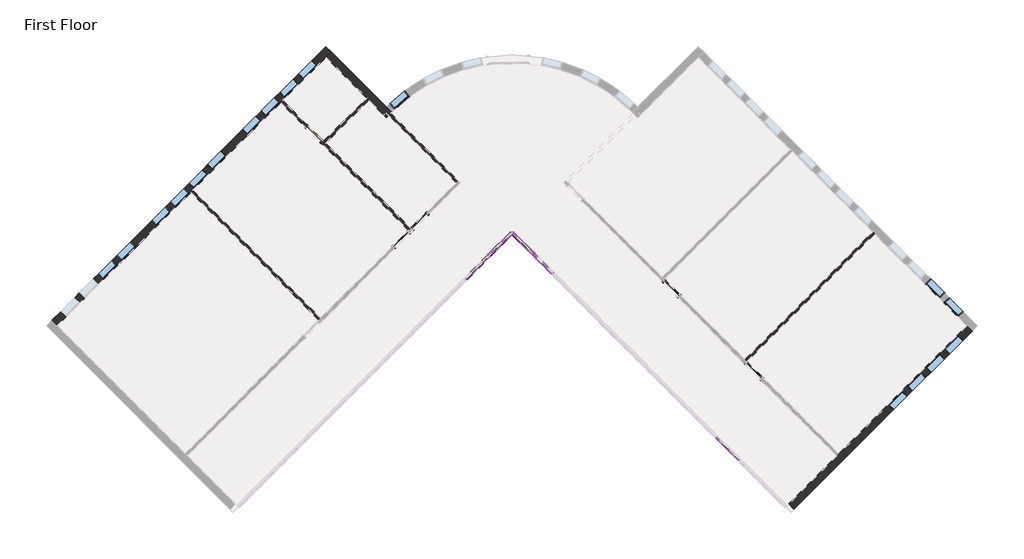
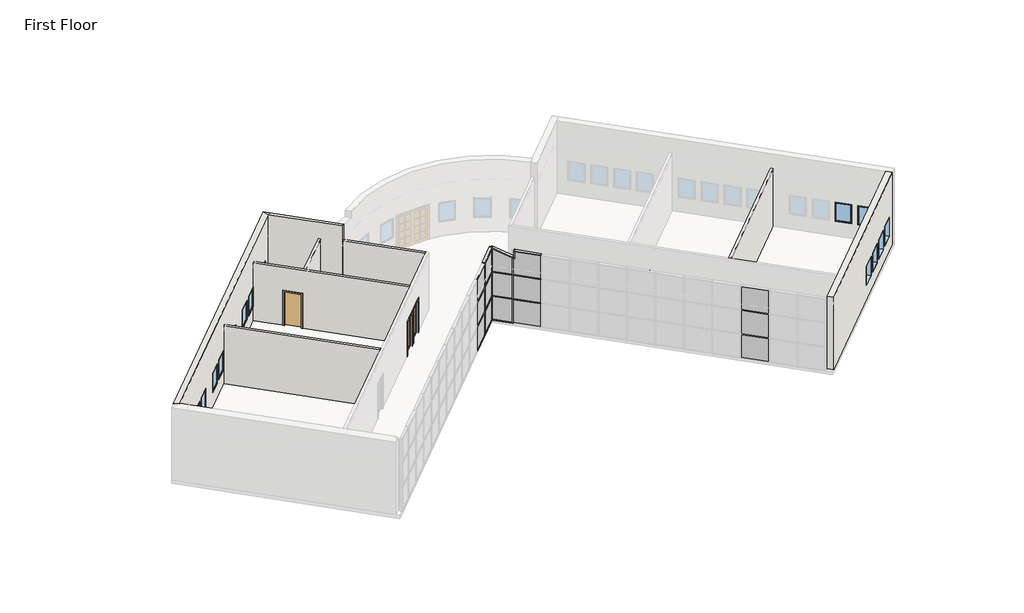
# One storey, part 3 of 4: 26 members, 17 windows, 15 plates, 8 walls, 5 doors.
"""IFC4 building model written with IfcOpenShell, lengths in millimetres."""

from ifc_helpers import new_model, si_unit, point, frame, frame_2d, origin, origin_with_axes, place, context, project, spatial, polyline, circle_curve, ellipse_curve, trimmed, segment, composite_curve, outline, extrude, faceted_brep, transform, mapped, element, save
from ifc_brep_helpers import plane_surface, revolved_surface, advanced_brep
from components import m_single_flush_0915_x_2134mm_83e8e835, m_single_glass_1_0915_x_2134mm_fb3287b7, m_single_glass_1_0915_x_2134mm_4e5e1233, rectangular_mullion_50_x_150mm_20f04808, rectangular_mullion_50_x_150mm_40297ad3, rectangular_mullion_50_x_150mm_25842354, rectangular_mullion_50_x_150mm_f494fff1, rectangular_mullion_50_x_150mm_2bb03180, rectangular_mullion_50_x_150mm_5da8f88f, rectangular_mullion_50_x_150mm_a88ac5a8, rectangular_mullion_50_x_150mm_4d330a12, rectangular_mullion_50_x_150mm_0b48c596, rectangular_mullion_50_x_150mm_c3f78bae, rectangular_mullion_50_x_150mm_4f5b6fb6, rectangular_mullion_50_x_150mm_1a5d4ec7, rectangular_mullion_50_x_150mm_d2079c38, rectangular_mullion_50_x_150mm_e2de7342, system_panel_glazed_3c3c243d, system_panel_glazed_a417ca2b, system_panel_glazed_437d720c, system_panel_glazed_7c4ff273, system_panel_glazed_1065fb32, system_panel_glazed_85fb0d8e, system_panel_solid_49e066f7, system_panel_solid_a570f427, system_panel_solid_e7212ce5, system_panel_solid_7245e66f, m_fixed_0915_x_1220mm_bde29121, m_fixed_0915_x_1220mm_2a2509e7

model = new_model("IFC4")

# Units and contexts
model_context = context("Model", 3, world=origin())
ifc_project = project(units=[si_unit("LENGTHUNIT", "METRE", prefix="MILLI")], contexts=[model_context])

# Site, building, storey
site = spatial("IfcSite", under=ifc_project)
building = spatial("IfcBuilding", under=site)
storey = spatial("IfcBuildingStorey", under=building, Name="First Floor", Elevation=0.0)

# Doors
placement = place(None, origin())
m_single_flush_0915_x_2134mm_shape = m_single_flush_0915_x_2134mm_83e8e835(model_context)
element("IfcDoor", 1, ObjectType="M_Single-Flush : 0915 x 2134mm", at=placement, inside=storey, context=model_context, shape_type="MappedRepresentation", body=[
    mapped(m_single_flush_0915_x_2134mm_shape, transform((-10762.6979297, 6563.7995594, 0.0), x_axis=(0.7071067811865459, -0.7071067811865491, 0.0), y_axis=(0.7071067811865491, 0.7071067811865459, 0.0), z_axis=(0.0, 0.0, 1.0))),
])
m_single_glass_1_0915_x_2134mm_shape = m_single_glass_1_0915_x_2134mm_fb3287b7(model_context)
element("IfcDoor", 2, ObjectType="M_Single-Glass 1 : 0915 x 2134mm", at=placement, inside=storey, context=model_context, shape_type="MappedRepresentation", body=[
    mapped(m_single_glass_1_0915_x_2134mm_shape, transform((-6731.4821701, 1669.9135268, 0.0), x_axis=(0.7071067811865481, 0.7071067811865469, 0.0), y_axis=(-0.7071067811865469, 0.7071067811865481, 0.0), z_axis=(0.0, 0.0, 1.0))),
])
m_single_glass_1_0915_x_2134mm_2_shape = m_single_glass_1_0915_x_2134mm_4e5e1233(model_context)
element("IfcDoor", 3, ObjectType="M_Single-Glass 1 : 0915 x 2134mm", at=placement, inside=storey, context=model_context, shape_type="MappedRepresentation", body=[
    mapped(m_single_glass_1_0915_x_2134mm_2_shape, transform((-5868.8118971, 2532.5837999, 0.0), x_axis=(-0.7071067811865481, -0.7071067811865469, 0.0), y_axis=(0.7071067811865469, -0.7071067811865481, 0.0), z_axis=(0.0, 0.0, 1.0))),
])
element("IfcDoor", 4, ObjectType="M_Single-Glass 1 : 0915 x 2134mm", at=placement, inside=storey, context=model_context, shape_type="MappedRepresentation", body=[
    mapped(m_single_glass_1_0915_x_2134mm_2_shape, transform((5790.8485946, -591.9442895, 0.0), x_axis=(-0.7071067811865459, 0.7071067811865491, 0.0), y_axis=(-0.7071067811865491, -0.7071067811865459, 0.0), z_axis=(0.0, 0.0, 1.0))),
])
element("IfcDoor", 5, ObjectType="M_Single-Glass 1 : 0915 x 2134mm", at=placement, inside=storey, context=model_context, shape_type="MappedRepresentation", body=[
    mapped(m_single_glass_1_0915_x_2134mm_2_shape, transform((9606.3967859, -4407.4924808, 0.0), x_axis=(-0.7071067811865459, 0.7071067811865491, 0.0), y_axis=(-0.7071067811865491, -0.7071067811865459, 0.0), z_axis=(0.0, 0.0, 1.0))),
])

# Members
rectangular_mullion_50_x_150mm_shape = rectangular_mullion_50_x_150mm_20f04808(model_context)
element("IfcMember", 6, ObjectType="Rectangular Mullion : 50 x 150mm", at=placement, inside=storey, context=model_context, shape_type="MappedRepresentation", body=[
    mapped(rectangular_mullion_50_x_150mm_shape, transform((-1636.601035, 1959.296977, 0.0), x_axis=(0.0, 0.0, -1.0), y_axis=(-0.7071067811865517, 0.7071067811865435, 0.0), z_axis=(0.7071067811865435, 0.7071067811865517, 0.0))),
])
rectangular_mullion_50_x_150mm_2_shape = rectangular_mullion_50_x_150mm_40297ad3(model_context)
element("IfcMember", 7, ObjectType="Rectangular Mullion : 50 x 150mm", at=placement, inside=storey, context=model_context, shape_type="MappedRepresentation", body=[
    mapped(rectangular_mullion_50_x_150mm_2_shape, transform((-2678.8764307, 917.0215813, 0.0), x_axis=(-0.7071067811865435, -0.7071067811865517, 0.0), y_axis=(-0.7071067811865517, 0.7071067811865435, 0.0), z_axis=(0.0, 0.0, -1.0))),
])
element("IfcMember", 8, ObjectType="Rectangular Mullion : 50 x 150mm", at=placement, inside=storey, context=model_context, shape_type="MappedRepresentation", body=[
    mapped(rectangular_mullion_50_x_150mm_2_shape, transform((-771.102335, 1164.5089552, 0.0), x_axis=(-0.7071067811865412, 0.7071067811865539, 0.0), y_axis=(0.7071067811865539, 0.7071067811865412, 0.0), z_axis=(0.0, 0.0, -1.0))),
])
rectangular_mullion_50_x_150mm_3_shape = rectangular_mullion_50_x_150mm_25842354(model_context)
element("IfcMember", 9, ObjectType="Rectangular Mullion : 50 x 150mm", at=placement, inside=storey, context=model_context, shape_type="MappedRepresentation", body=[
    mapped(rectangular_mullion_50_x_150mm_3_shape, transform((-2661.1987611, 934.6992509, 1524.0), x_axis=(0.0, 0.0, 1.0), y_axis=(-0.7071067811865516, 0.7071067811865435, 0.0), z_axis=(-0.7071067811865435, -0.7071067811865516, 0.0))),
])
element("IfcMember", 10, ObjectType="Rectangular Mullion : 50 x 150mm", at=placement, inside=storey, context=model_context, shape_type="MappedRepresentation", body=[
    mapped(rectangular_mullion_50_x_150mm_3_shape, transform((-2661.1987611, 934.6992509, 3048.0), x_axis=(0.0, 0.0, 1.0), y_axis=(-0.7071067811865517, 0.7071067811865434, 0.0), z_axis=(-0.7071067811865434, -0.7071067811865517, 0.0))),
])
rectangular_mullion_50_x_150mm_4_shape = rectangular_mullion_50_x_150mm_f494fff1(model_context)
element("IfcMember", 11, ObjectType="Rectangular Mullion : 50 x 150mm", at=placement, inside=storey, context=model_context, shape_type="MappedRepresentation", body=[
    mapped(rectangular_mullion_50_x_150mm_4_shape, transform((-753.4246655, 1146.8312856, 1524.0), x_axis=(0.0, 0.0, 1.0), y_axis=(0.7071067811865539, 0.7071067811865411, 0.0), z_axis=(-0.7071067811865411, 0.7071067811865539, 0.0))),
])
element("IfcMember", 12, ObjectType="Rectangular Mullion : 50 x 150mm", at=placement, inside=storey, context=model_context, shape_type="MappedRepresentation", body=[
    mapped(rectangular_mullion_50_x_150mm_4_shape, transform((-753.4246655, 1146.8312856, 3048.0), x_axis=(0.0, 0.0, 1.0), y_axis=(0.7071067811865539, 0.7071067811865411, 0.0), z_axis=(-0.7071067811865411, 0.7071067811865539, 0.0))),
])
rectangular_mullion_50_x_150mm_5_shape = rectangular_mullion_50_x_150mm_2bb03180(model_context)
element("IfcMember", 13, ObjectType="Rectangular Mullion : 50 x 150mm", at=placement, inside=storey, context=model_context, shape_type="MappedRepresentation", body=[
    mapped(rectangular_mullion_50_x_150mm_5_shape, transform((-1565.8903569, 1959.296977, 1524.0), x_axis=(0.0, 0.0, 1.0), y_axis=(0.707106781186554, 0.707106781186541, 0.0), z_axis=(-0.707106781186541, 0.707106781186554, 0.0))),
])
element("IfcMember", 14, ObjectType="Rectangular Mullion : 50 x 150mm", at=placement, inside=storey, context=model_context, shape_type="MappedRepresentation", body=[
    mapped(rectangular_mullion_50_x_150mm_5_shape, transform((-1565.8903569, 1959.296977, 3048.0), x_axis=(0.0, 0.0, 1.0), y_axis=(0.707106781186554, 0.707106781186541, 0.0), z_axis=(-0.707106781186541, 0.707106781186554, 0.0))),
])
rectangular_mullion_50_x_150mm_6_shape = rectangular_mullion_50_x_150mm_5da8f88f(model_context)
element("IfcMember", 15, ObjectType="Rectangular Mullion : 50 x 150mm", at=placement, inside=storey, context=model_context, shape_type="MappedRepresentation", body=[
    mapped(rectangular_mullion_50_x_150mm_6_shape, transform((-2696.5541002, 899.3439118, 0.0), x_axis=(0.0, 0.0, -1.0), y_axis=(-0.7071067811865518, 0.7071067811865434, 0.0), z_axis=(0.7071067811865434, 0.7071067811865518, 0.0))),
])
rectangular_mullion_50_x_150mm_7_shape = rectangular_mullion_50_x_150mm_a88ac5a8(model_context)
element("IfcMember", 16, ObjectType="Rectangular Mullion : 50 x 150mm", at=placement, inside=storey, context=model_context, shape_type="MappedRepresentation", body=[
    mapped(rectangular_mullion_50_x_150mm_7_shape, transform((-788.7800045, 1182.1866247, 0.0), x_axis=(0.0, 0.0, -1.0), y_axis=(0.707106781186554, 0.7071067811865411, 0.0), z_axis=(0.707106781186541, -0.7071067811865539, 0.0))),
])
element("IfcMember", 17, ObjectType="Rectangular Mullion : 50 x 150mm", at=placement, inside=storey, context=model_context, shape_type="MappedRepresentation", body=[
    mapped(rectangular_mullion_50_x_150mm_shape, transform((-2661.1987611, 934.6992509, 4572.0), x_axis=(0.0, 0.0, 1.0), y_axis=(-0.7071067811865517, 0.7071067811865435, 0.0), z_axis=(-0.7071067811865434, -0.7071067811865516, 0.0))),
])
element("IfcMember", 18, ObjectType="Rectangular Mullion : 50 x 150mm", at=placement, inside=storey, context=model_context, shape_type="MappedRepresentation", body=[
    mapped(rectangular_mullion_50_x_150mm_2_shape, transform((-2678.8764307, 917.0215813, 1524.0), x_axis=(-0.7071067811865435, -0.7071067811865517, 0.0), y_axis=(-0.7071067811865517, 0.7071067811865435, 0.0), z_axis=(0.0, 0.0, -1.0))),
])
element("IfcMember", 19, ObjectType="Rectangular Mullion : 50 x 150mm", at=placement, inside=storey, context=model_context, shape_type="MappedRepresentation", body=[
    mapped(rectangular_mullion_50_x_150mm_2_shape, transform((-771.102335, 1164.5089552, 1524.0), x_axis=(-0.7071067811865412, 0.7071067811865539, 0.0), y_axis=(0.7071067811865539, 0.7071067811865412, 0.0), z_axis=(0.0, 0.0, -1.0))),
])
element("IfcMember", 20, ObjectType="Rectangular Mullion : 50 x 150mm", at=placement, inside=storey, context=model_context, shape_type="MappedRepresentation", body=[
    mapped(rectangular_mullion_50_x_150mm_2_shape, transform((-2678.8764307, 917.0215813, 3048.0), x_axis=(-0.7071067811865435, -0.7071067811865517, 0.0), y_axis=(-0.7071067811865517, 0.7071067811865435, 0.0), z_axis=(0.0, 0.0, -1.0))),
])
rectangular_mullion_50_x_150mm_8_shape = rectangular_mullion_50_x_150mm_4d330a12(model_context)
element("IfcMember", 21, ObjectType="Rectangular Mullion : 50 x 150mm", at=placement, inside=storey, context=model_context, shape_type="MappedRepresentation", body=[
    mapped(rectangular_mullion_50_x_150mm_8_shape, transform((-1601.2456959, 1994.6523161, 4572.0), x_axis=(0.7071067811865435, 0.7071067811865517, 0.0), y_axis=(-0.7071067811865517, 0.7071067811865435, 0.0), z_axis=(0.0, 0.0, 1.0))),
])
element("IfcMember", 22, ObjectType="Rectangular Mullion : 50 x 150mm", at=placement, inside=storey, context=model_context, shape_type="MappedRepresentation", body=[
    mapped(rectangular_mullion_50_x_150mm_8_shape, transform((-1601.2456959, 1994.6523161, 0.0), x_axis=(-0.7071067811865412, 0.7071067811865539, 0.0), y_axis=(0.7071067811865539, 0.7071067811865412, 0.0), z_axis=(0.0, 0.0, -1.0))),
])
element("IfcMember", 23, ObjectType="Rectangular Mullion : 50 x 150mm", at=placement, inside=storey, context=model_context, shape_type="MappedRepresentation", body=[
    mapped(rectangular_mullion_50_x_150mm_8_shape, transform((-1601.2456959, 1994.6523161, 1524.0), x_axis=(-0.7071067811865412, 0.7071067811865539, 0.0), y_axis=(0.7071067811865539, 0.7071067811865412, 0.0), z_axis=(0.0, 0.0, -1.0))),
])
element("IfcMember", 24, ObjectType="Rectangular Mullion : 50 x 150mm", at=placement, inside=storey, context=model_context, shape_type="MappedRepresentation", body=[
    mapped(rectangular_mullion_50_x_150mm_8_shape, transform((-1601.2456959, 1994.6523161, 1524.0), x_axis=(0.7071067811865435, 0.7071067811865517, 0.0), y_axis=(-0.7071067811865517, 0.7071067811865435, 0.0), z_axis=(0.0, 0.0, 1.0))),
])
element("IfcMember", 25, ObjectType="Rectangular Mullion : 50 x 150mm", at=placement, inside=storey, context=model_context, shape_type="MappedRepresentation", body=[
    mapped(rectangular_mullion_50_x_150mm_8_shape, transform((-1601.2456959, 1994.6523161, 3048.0), x_axis=(0.7071067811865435, 0.7071067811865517, 0.0), y_axis=(-0.7071067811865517, 0.7071067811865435, 0.0), z_axis=(0.0, 0.0, 1.0))),
])
rectangular_mullion_50_x_150mm_9_shape = rectangular_mullion_50_x_150mm_0b48c596(model_context)
element("IfcMember", 26, ObjectType="Rectangular Mullion : 50 x 150mm", at=placement, inside=storey, context=model_context, shape_type="MappedRepresentation", body=[
    mapped(rectangular_mullion_50_x_150mm_9_shape, transform((-703.2200838, 1096.626704, 4572.0), x_axis=(0.0, 0.0, 1.0), y_axis=(0.7071067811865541, 0.7071067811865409, 0.0), z_axis=(-0.7071067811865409, 0.7071067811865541, 0.0))),
])
rectangular_mullion_50_x_150mm_10_shape = rectangular_mullion_50_x_150mm_c3f78bae(model_context)
element("IfcMember", 27, ObjectType="Rectangular Mullion : 50 x 150mm", at=placement, inside=storey, context=model_context, shape_type="MappedRepresentation", body=[
    mapped(rectangular_mullion_50_x_150mm_10_shape, transform((-738.5754229, 1131.982043, 4164.7405634), x_axis=(-0.7071067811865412, 0.7071067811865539, 0.0), y_axis=(0.7071067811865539, 0.7071067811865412, 0.0), z_axis=(0.0, 0.0, -1.0))),
])
rectangular_mullion_50_x_150mm_11_shape = rectangular_mullion_50_x_150mm_4f5b6fb6(model_context)
element("IfcMember", 28, ObjectType="Rectangular Mullion : 50 x 150mm", at=placement, inside=storey, context=model_context, shape_type="MappedRepresentation", body=[
    mapped(rectangular_mullion_50_x_150mm_11_shape, transform((-1601.2456959, 1994.6523161, 4572.0), x_axis=(0.22390007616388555, -0.22390007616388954, 0.9485449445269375), y_axis=(0.7071067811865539, 0.7071067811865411, 0.0), z_axis=(-0.6707225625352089, 0.6707225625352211, 0.3166425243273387))),
])
rectangular_mullion_50_x_150mm_12_shape = rectangular_mullion_50_x_150mm_1a5d4ec7(model_context)
element("IfcMember", 29, ObjectType="Rectangular Mullion : 50 x 150mm", at=placement, inside=storey, context=model_context, shape_type="MappedRepresentation", body=[
    mapped(rectangular_mullion_50_x_150mm_12_shape, transform((-771.102335, 1164.5089552, 4180.0962472), x_axis=(0.22390007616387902, -0.22390007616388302, 0.9485449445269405), y_axis=(0.7071067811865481, 0.7071067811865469, 0.0), z_axis=(-0.6707225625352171, 0.6707225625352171, 0.3166425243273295))),
])
rectangular_mullion_50_x_150mm_13_shape = rectangular_mullion_50_x_150mm_d2079c38(model_context)
element("IfcMember", 30, ObjectType="Rectangular Mullion : 50 x 150mm", at=placement, inside=storey, context=model_context, shape_type="MappedRepresentation", body=[
    mapped(rectangular_mullion_50_x_150mm_13_shape, transform((-771.102335, 1164.5089552, 3048.0), x_axis=(-0.7071067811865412, 0.7071067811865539, 0.0), y_axis=(0.7071067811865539, 0.7071067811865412, 0.0), z_axis=(0.0, 0.0, -1.0))),
])
rectangular_mullion_50_x_150mm_14_shape = rectangular_mullion_50_x_150mm_e2de7342(model_context)
element("IfcMember", 31, ObjectType="Rectangular Mullion : 50 x 150mm", at=placement, inside=storey, context=model_context, shape_type="MappedRepresentation", body=[
    mapped(rectangular_mullion_50_x_150mm_14_shape, transform((-1601.2456959, 1994.6523161, 3048.0), x_axis=(-0.7071067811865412, 0.7071067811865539, 0.0), y_axis=(0.7071067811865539, 0.7071067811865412, 0.0), z_axis=(0.0, 0.0, -1.0))),
])

# Plates
system_panel_glazed_shape = system_panel_glazed_3c3c243d(model_context)
element("IfcPlate", 32, ObjectType="System Panel : Glazed", at=placement, inside=storey, context=model_context, shape_type="MappedRepresentation", body=[
    mapped(system_panel_glazed_shape, transform((-2148.899898, 1446.9981139, 50.0), x_axis=(-0.7071067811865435, -0.7071067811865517, 0.0), y_axis=(0.7071067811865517, -0.7071067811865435, 0.0), z_axis=(0.0, 0.0, 1.0))),
])
system_panel_glazed_2_shape = system_panel_glazed_a417ca2b(model_context)
element("IfcPlate", 33, ObjectType="System Panel : Glazed", at=placement, inside=storey, context=model_context, shape_type="MappedRepresentation", body=[
    mapped(system_panel_glazed_2_shape, transform((8388.7589085, -7995.3522883, 50.0), x_axis=(-0.7071067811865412, 0.7071067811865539, 0.0), y_axis=(-0.7071067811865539, -0.7071067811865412, 0.0), z_axis=(0.0, 0.0, 1.0))),
])
element("IfcPlate", 34, ObjectType="System Panel : Glazed", at=placement, inside=storey, context=model_context, shape_type="MappedRepresentation", body=[
    mapped(system_panel_glazed_2_shape, transform((-3217.6917979, 378.2062141, 50.0), x_axis=(-0.7071067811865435, -0.7071067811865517, 0.0), y_axis=(0.7071067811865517, -0.7071067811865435, 0.0), z_axis=(0.0, 0.0, 1.0))),
])
element("IfcPlate", 35, ObjectType="System Panel : Glazed", at=placement, inside=storey, context=model_context, shape_type="MappedRepresentation", body=[
    mapped(system_panel_glazed_2_shape, transform((-232.2869677, 625.6935879, 50.0), x_axis=(-0.7071067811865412, 0.7071067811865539, 0.0), y_axis=(-0.7071067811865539, -0.7071067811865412, 0.0), z_axis=(0.0, 0.0, 1.0))),
])
system_panel_glazed_3_shape = system_panel_glazed_437d720c(model_context)
element("IfcPlate", 36, ObjectType="System Panel : Glazed", at=placement, inside=storey, context=model_context, shape_type="MappedRepresentation", body=[
    mapped(system_panel_glazed_3_shape, transform((-2148.899898, 1446.9981139, 1549.0), x_axis=(-0.7071067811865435, -0.7071067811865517, 0.0), y_axis=(0.7071067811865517, -0.7071067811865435, 0.0), z_axis=(0.0, 0.0, 1.0))),
])
system_panel_glazed_4_shape = system_panel_glazed_7c4ff273(model_context)
element("IfcPlate", 37, ObjectType="System Panel : Glazed", at=placement, inside=storey, context=model_context, shape_type="MappedRepresentation", body=[
    mapped(system_panel_glazed_4_shape, transform((8388.7589085, -7995.3522883, 1549.0), x_axis=(-0.7071067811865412, 0.7071067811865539, 0.0), y_axis=(-0.7071067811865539, -0.7071067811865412, 0.0), z_axis=(0.0, 0.0, 1.0))),
])
element("IfcPlate", 38, ObjectType="System Panel : Glazed", at=placement, inside=storey, context=model_context, shape_type="MappedRepresentation", body=[
    mapped(system_panel_glazed_4_shape, transform((-3217.6917979, 378.2062141, 1549.0), x_axis=(-0.7071067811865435, -0.7071067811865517, 0.0), y_axis=(0.7071067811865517, -0.7071067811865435, 0.0), z_axis=(0.0, 0.0, 1.0))),
])
element("IfcPlate", 39, ObjectType="System Panel : Glazed", at=placement, inside=storey, context=model_context, shape_type="MappedRepresentation", body=[
    mapped(system_panel_glazed_4_shape, transform((-232.2869677, 625.6935879, 1549.0), x_axis=(-0.7071067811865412, 0.7071067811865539, 0.0), y_axis=(-0.7071067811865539, -0.7071067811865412, 0.0), z_axis=(0.0, 0.0, 1.0))),
])
system_panel_glazed_5_shape = system_panel_glazed_1065fb32(model_context)
element("IfcPlate", 40, ObjectType="System Panel : Glazed", at=placement, inside=storey, context=model_context, shape_type="MappedRepresentation", body=[
    mapped(system_panel_glazed_5_shape, transform((-1177.3351807, 1570.7418009, 50.0), x_axis=(-0.7071067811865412, 0.7071067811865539, 0.0), y_axis=(-0.7071067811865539, -0.7071067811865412, 0.0), z_axis=(0.0, 0.0, 1.0))),
])
system_panel_glazed_6_shape = system_panel_glazed_85fb0d8e(model_context)
element("IfcPlate", 41, ObjectType="System Panel : Glazed", at=placement, inside=storey, context=model_context, shape_type="MappedRepresentation", body=[
    mapped(system_panel_glazed_6_shape, transform((-1177.3351807, 1570.7418009, 1549.0), x_axis=(-0.7071067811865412, 0.7071067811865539, 0.0), y_axis=(-0.7071067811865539, -0.7071067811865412, 0.0), z_axis=(0.0, 0.0, 1.0))),
])
system_panel_solid_shape = system_panel_solid_49e066f7(model_context)
element("IfcPlate", 42, ObjectType="System Panel : Solid", at=placement, inside=storey, context=model_context, shape_type="MappedRepresentation", body=[
    mapped(system_panel_solid_shape, transform((-2148.899898, 1446.9981139, 3073.0), x_axis=(-0.7071067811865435, -0.7071067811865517, 0.0), y_axis=(0.7071067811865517, -0.7071067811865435, 0.0), z_axis=(0.0, 0.0, 1.0))),
])
system_panel_solid_2_shape = system_panel_solid_a570f427(model_context)
element("IfcPlate", 43, ObjectType="System Panel : Solid", at=placement, inside=storey, context=model_context, shape_type="MappedRepresentation", body=[
    mapped(system_panel_solid_2_shape, transform((8388.7589085, -7995.3522883, 3073.0), x_axis=(-0.7071067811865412, 0.7071067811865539, 0.0), y_axis=(-0.7071067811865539, -0.7071067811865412, 0.0), z_axis=(0.0, 0.0, 1.0))),
])
element("IfcPlate", 44, ObjectType="System Panel : Solid", at=placement, inside=storey, context=model_context, shape_type="MappedRepresentation", body=[
    mapped(system_panel_solid_2_shape, transform((-3217.6917979, 378.2062141, 3073.0), x_axis=(-0.7071067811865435, -0.7071067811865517, 0.0), y_axis=(0.7071067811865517, -0.7071067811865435, 0.0), z_axis=(0.0, 0.0, 1.0))),
])
system_panel_solid_3_shape = system_panel_solid_e7212ce5(model_context)
element("IfcPlate", 45, ObjectType="System Panel : Solid", at=placement, inside=storey, context=model_context, shape_type="MappedRepresentation", body=[
    mapped(system_panel_solid_3_shape, transform((-232.2869677, 625.6935879, 3073.0), x_axis=(-0.7071067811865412, 0.7071067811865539, 0.0), y_axis=(-0.7071067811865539, -0.7071067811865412, 0.0), z_axis=(0.0, 0.0, 1.0))),
])
system_panel_solid_4_shape = system_panel_solid_7245e66f(model_context)
element("IfcPlate", 46, ObjectType="System Panel : Solid", at=placement, inside=storey, context=model_context, shape_type="MappedRepresentation", body=[
    mapped(system_panel_solid_4_shape, transform((-1177.3351807, 1570.7418009, 3073.0), x_axis=(-0.7071067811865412, 0.7071067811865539, 0.0), y_axis=(-0.7071067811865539, -0.7071067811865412, 0.0), z_axis=(0.0, 0.0, 1.0))),
])

# Walls
element("IfcWall", 47, ObjectType="Exterior - Brick on Mtl. Stud", at=placement, inside=storey, context=model_context, shape_type="Brep", body=[
    faceted_brep([(19456.3942478, -2315.870622, 0.0), (13534.5517321, -8237.7131378, 0.0), (13436.6174429, -8335.647427, 0.0), (11206.5794317, -10565.6854381, 0.0), (11206.5794317, -10565.6854381, 4572.0), (19456.3942478, -2315.870622, 4572.0), (16455.7866219, -5316.478248, 915.0), (16455.7866219, -5316.478248, 2135.0), (15808.7839171, -5963.4809528, 2135.0), (15808.7839171, -5963.4809528, 915.0), (17317.7497881, -4454.5150817, 915.0), (17317.7497881, -4454.5150817, 2135.0), (16670.7470833, -5101.5177865, 2135.0), (16670.7470833, -5101.5177865, 915.0), (18179.7129544, -3592.5519155, 915.0), (18179.7129544, -3592.5519155, 2135.0), (17532.7102496, -4239.5546203, 2135.0), (17532.7102496, -4239.5546203, 915.0), (19041.6761207, -2730.5887492, 915.0), (19041.6761207, -2730.5887492, 2135.0), (18394.6734159, -3377.591454, 2135.0), (18394.6734159, -3377.591454, 915.0), (19703.8816212, -2563.3579955, 0.0), (19703.8816212, -2563.3579955, 4572.0), (11454.0668051, -10813.1728116, 4572.0), (11454.0668051, -10813.1728116, 0.0), (16703.2739953, -5563.9656214, 915.0), (16056.2712905, -6210.9683262, 915.0), (16056.2712905, -6210.9683262, 2135.0), (16703.2739953, -5563.9656214, 2135.0), (17565.2371615, -4702.0024552, 915.0), (16918.2344568, -5349.0051599, 915.0), (16918.2344568, -5349.0051599, 2135.0), (17565.2371615, -4702.0024552, 2135.0), (18427.2003278, -3840.0392889, 915.0), (17780.197623, -4487.0419937, 915.0), (17780.197623, -4487.0419937, 2135.0), (18427.2003278, -3840.0392889, 2135.0), (19289.1634941, -2978.0761226, 915.0), (18642.1607893, -3625.0788274, 915.0), (18642.1607893, -3625.0788274, 2135.0), (19289.1634941, -2978.0761226, 2135.0)], [[[0, 1, 2, 3, 4, 5], [6, 7, 8, 9], [10, 11, 12, 13], [14, 15, 16, 17], [18, 19, 20, 21]], [[22, 23, 24, 25], [26, 27, 28, 29], [30, 31, 32, 33], [34, 35, 36, 37], [38, 39, 40, 41]], [[3, 2, 1, 0, 22, 25]], [[4, 3, 25, 24]], [[5, 4, 24, 23]], [[0, 5, 23, 22]], [[7, 6, 26, 29]], [[8, 7, 29, 28]], [[9, 8, 28, 27]], [[6, 9, 27, 26]], [[11, 10, 30, 33]], [[12, 11, 33, 32]], [[13, 12, 32, 31]], [[10, 13, 31, 30]], [[15, 14, 34, 37]], [[16, 15, 37, 36]], [[17, 16, 36, 35]], [[14, 17, 35, 34]], [[19, 18, 38, 41]], [[20, 19, 41, 40]], [[21, 20, 40, 39]], [[18, 21, 39, 38]]]),
])
element("IfcWall", 48, ObjectType="Exterior - Brick on Mtl. Stud", at=placement, inside=storey, context=model_context, shape_type="Brep", body=[
    faceted_brep([(-22658.8856396, -2315.870622, 0.0), (-16473.6458479, 3869.3691697, 0.0), (-16375.7115587, 3967.3034589, 0.0), (-12319.9238385, 8023.0911791, 0.0), (-12221.9895493, 8121.0254683, 0.0), (-10222.2915721, 10120.7234455, 0.0), (-9974.8041987, 10368.2108189, 0.0), (-9974.8041987, 10368.2108189, 4572.0), (-10222.2915721, 10120.7234455, 4688.8367236), (-22658.8856396, -2315.870622, 4688.8367236), (-21597.1648077, -1254.1497901, 915.0), (-22244.1675125, -1901.1524949, 915.0), (-22244.1675125, -1901.1524949, 2135.0), (-21597.1648077, -1254.1497901, 2135.0), (-20735.2016414, -392.1866238, 915.0), (-21382.2043462, -1039.1893286, 915.0), (-21382.2043462, -1039.1893286, 2135.0), (-20735.2016414, -392.1866238, 2135.0), (-19011.2753089, 1331.7397087, 915.0), (-19658.2780137, 684.7370039, 915.0), (-19658.2780137, 684.7370039, 2135.0), (-19011.2753089, 1331.7397087, 2135.0), (-19873.2384752, 469.7765424, 915.0), (-20520.2411799, -177.2261623, 915.0), (-20520.2411799, -177.2261623, 2135.0), (-19873.2384752, 469.7765424, 2135.0), (-13838.0820977, 6504.9329199, 915.0), (-13838.0820977, 6504.9329199, 2135.0), (-13191.0793929, 7151.9356247, 2135.0), (-13191.0793929, 7151.9356247, 915.0), (-12976.1189315, 7366.8960861, 915.0), (-12976.1189315, 7366.8960861, 2135.0), (-12329.1162267, 8013.8987909, 2135.0), (-12329.1162267, 8013.8987909, 915.0), (-12114.1557652, 8228.8592524, 915.0), (-12114.1557652, 8228.8592524, 2135.0), (-11467.1530604, 8875.8619572, 2135.0), (-11467.1530604, 8875.8619572, 915.0), (-11252.1925989, 9090.8224187, 915.0), (-11252.1925989, 9090.8224187, 2135.0), (-10605.1898941, 9737.8251235, 2135.0), (-10605.1898941, 9737.8251235, 915.0), (-14808.2326015, 5534.7824161, 915.0), (-15455.2353063, 4887.7797113, 915.0), (-15455.2353063, 4887.7797113, 2135.0), (-14808.2326015, 5534.7824161, 2135.0), (-15670.1957678, 4672.8192498, 915.0), (-16317.1984726, 4025.816545, 915.0), (-16317.1984726, 4025.816545, 2135.0), (-15670.1957678, 4672.8192498, 2135.0), (-16532.1589341, 3810.8560836, 915.0), (-17179.1616388, 3163.8533788, 915.0), (-17179.1616388, 3163.8533788, 2135.0), (-16532.1589341, 3810.8560836, 2135.0), (-17394.1221003, 2948.8929173, 915.0), (-18041.1248051, 2301.8902125, 915.0), (-18041.1248051, 2301.8902125, 2135.0), (-17394.1221003, 2948.8929173, 2135.0), (-22906.3730131, -2068.3832486, 0.0), (-22906.3730131, -2068.3832486, 4572.0), (-10222.2915721, 10615.6981923, 4572.0), (-10222.2915721, 10615.6981923, 0.0), (-21844.6521811, -1006.6624167, 915.0), (-21844.6521811, -1006.6624167, 2135.0), (-22491.6548859, -1653.6651215, 2135.0), (-22491.6548859, -1653.6651215, 915.0), (-20982.6890148, -144.6992504, 915.0), (-20982.6890148, -144.6992504, 2135.0), (-21629.6917196, -791.7019552, 2135.0), (-21629.6917196, -791.7019552, 915.0), (-19258.7626823, 1579.2270821, 915.0), (-19258.7626823, 1579.2270821, 2135.0), (-19905.7653871, 932.2243773, 2135.0), (-19905.7653871, 932.2243773, 915.0), (-20120.7258486, 717.2639159, 915.0), (-20120.7258486, 717.2639159, 2135.0), (-20767.7285534, 70.2612111, 2135.0), (-20767.7285534, 70.2612111, 915.0), (-14085.5694711, 6752.4202933, 915.0), (-13438.5667664, 7399.4229981, 915.0), (-13438.5667664, 7399.4229981, 2135.0), (-14085.5694711, 6752.4202933, 2135.0), (-13223.6063049, 7614.3834596, 915.0), (-12576.6036001, 8261.3861643, 915.0), (-12576.6036001, 8261.3861643, 2135.0), (-13223.6063049, 7614.3834596, 2135.0), (-12361.6431386, 8476.3466258, 915.0), (-11714.6404338, 9123.3493306, 915.0), (-11714.6404338, 9123.3493306, 2135.0), (-12361.6431386, 8476.3466258, 2135.0), (-11499.6799723, 9338.3097921, 915.0), (-10852.6772676, 9985.3124969, 915.0), (-10852.6772676, 9985.3124969, 2135.0), (-11499.6799723, 9338.3097921, 2135.0), (-15055.7199749, 5782.2697895, 915.0), (-15055.7199749, 5782.2697895, 2135.0), (-15702.7226797, 5135.2670847, 2135.0), (-15702.7226797, 5135.2670847, 915.0), (-15917.6831412, 4920.3066232, 915.0), (-15917.6831412, 4920.3066232, 2135.0), (-16564.685846, 4273.3039184, 2135.0), (-16564.685846, 4273.3039184, 915.0), (-16779.6463075, 4058.343457, 915.0), (-16779.6463075, 4058.343457, 2135.0), (-17426.6490123, 3411.3407522, 2135.0), (-17426.6490123, 3411.3407522, 915.0), (-17641.6094737, 3196.3802907, 915.0), (-17641.6094737, 3196.3802907, 2135.0), (-18288.6121785, 2549.3775859, 2135.0), (-18288.6121785, 2549.3775859, 915.0)], [[[0, 1, 2, 3, 4, 5, 6, 7, 8, 9], [10, 11, 12, 13], [14, 15, 16, 17], [18, 19, 20, 21], [22, 23, 24, 25], [26, 27, 28, 29], [30, 31, 32, 33], [34, 35, 36, 37], [38, 39, 40, 41], [42, 43, 44, 45], [46, 47, 48, 49], [50, 51, 52, 53], [54, 55, 56, 57]], [[58, 59, 60, 61], [62, 63, 64, 65], [66, 67, 68, 69], [70, 71, 72, 73], [74, 75, 76, 77], [78, 79, 80, 81], [82, 83, 84, 85], [86, 87, 88, 89], [90, 91, 92, 93], [94, 95, 96, 97], [98, 99, 100, 101], [102, 103, 104, 105], [106, 107, 108, 109]], [[0, 9, 59, 58]], [[7, 6, 61, 60]], [[63, 62, 10, 13]], [[64, 63, 13, 12]], [[65, 64, 12, 11]], [[62, 65, 11, 10]], [[67, 66, 14, 17]], [[68, 67, 17, 16]], [[69, 68, 16, 15]], [[66, 69, 15, 14]], [[71, 70, 18, 21]], [[72, 71, 21, 20]], [[73, 72, 20, 19]], [[70, 73, 19, 18]], [[75, 74, 22, 25]], [[76, 75, 25, 24]], [[77, 76, 24, 23]], [[74, 77, 23, 22]], [[27, 26, 78, 81]], [[28, 27, 81, 80]], [[29, 28, 80, 79]], [[26, 29, 79, 78]], [[31, 30, 82, 85]], [[32, 31, 85, 84]], [[33, 32, 84, 83]], [[30, 33, 83, 82]], [[35, 34, 86, 89]], [[36, 35, 89, 88]], [[37, 36, 88, 87]], [[34, 37, 87, 86]], [[39, 38, 90, 93]], [[40, 39, 93, 92]], [[41, 40, 92, 91]], [[38, 41, 91, 90]], [[95, 94, 42, 45]], [[96, 95, 45, 44]], [[97, 96, 44, 43]], [[94, 97, 43, 42]], [[99, 98, 46, 49]], [[100, 99, 49, 48]], [[101, 100, 48, 47]], [[98, 101, 47, 46]], [[103, 102, 50, 53]], [[104, 103, 53, 52]], [[105, 104, 52, 51]], [[102, 105, 51, 50]], [[107, 106, 54, 57]], [[108, 107, 57, 56]], [[109, 108, 56, 55]], [[106, 109, 55, 54]], [[9, 8, 60, 59]], [[8, 7, 60]], [[6, 5, 4, 3, 2, 1, 0, 58, 61]]]),
])
element("IfcWall", 49, ObjectType="Exterior - Brick on Mtl. Stud", at=placement, inside=storey, context=model_context, shape_type="AdvancedBrep", body=[
    advanced_brep(
    [(-10222.2915721, 10120.7234455, 0.0), (-8331.6648159, 8230.0966893, 0.0), (-8233.7305267, 8132.1624001, 0.0), (-7415.2355619, 7313.6674352, 0.0), (-7415.2355619, 7313.6674352, 4688.8367236), (-10222.2915721, 10120.7234455, 4688.8367236), (-9974.8041987, 10368.2108189, 0.0), (-9974.8041987, 10368.2108189, 4572.0), (-7420.7345051, 7814.1411252, 4572.0), (-7173.2471317, 7566.6537518, 4572.0), (-7173.2471317, 7566.6537518, 0.0), (-7420.7345051, 7814.1411252, 0.0), (-7312.3566207, 7423.9811885, 0.0), (-7216.038281, 7523.5314273, 0.0)],
    [
        (0, 1),
        (1, 2),
        (2, 3),
        (3, 4),
        (4, 5),
        (5, 0),
        (6, 7),
        (7, 8),
        (8, 9),
        (9, 10),
        (10, 11),
        (11, 6),
        (5, 7),
        (6, 0),
        (3, 12, circle_curve(frame((-1601.2456959, 1994.6523161, 0.0), z_axis=(0.0, 0.0, -1.0), x_axis=(1.0, 0.0, 0.0)), 7880.0)),
        (12, 13, circle_curve(frame((-1601.2456959, 1994.6523161, 0.0), z_axis=(0.0, 0.0, -1.0), x_axis=(1.0, 0.0, 0.0)), 7880.0)),
        (13, 10, circle_curve(frame((-1601.2456959, 1994.6523161, 0.0), z_axis=(0.0, 0.0, -1.0), x_axis=(1.0, 0.0, 0.0)), 7880.0)),
        (9, 4, ellipse_curve(frame((-1601.2456959, 1994.6523161, 4572.0), z_axis=(0.22390007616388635, 0.2239000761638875, 0.9485449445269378), x_axis=(0.6707225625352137, 0.6707225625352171, -0.3166425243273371)), 8307.4608594, 7880.0)),
    ],
    [
        plane_surface(frame((-10469.7789456, 10368.2108189, 0.0), z_axis=(-0.7071067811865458, -0.7071067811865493, 0.0), x_axis=(0.7071067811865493, -0.7071067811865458, 0.0))),
        plane_surface(frame((-10222.2915721, 10615.6981923, 0.0), z_axis=(0.7071067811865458, 0.7071067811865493, 0.0), x_axis=(-0.7071067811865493, 0.7071067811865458, 0.0))),
        plane_surface(frame((-22906.3730131, -2563.3579955, 0.0), z_axis=(-0.7071067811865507, 0.7071067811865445, 0.0), x_axis=(0.7071067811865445, 0.7071067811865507, 0.0))),
        revolved_surface(polyline([(6278.7543041, 1994.6523161, 0.0), (6278.7543041, 1994.6523161, 7202.495377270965)]), (-1601.2456959, 1994.6523161, 0.0), (0.0, 0.0, -1.0)),
        plane_surface(frame((124.0948502, 1994.6523161, 4164.7405634), z_axis=(0.22390007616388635, 0.2239000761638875, 0.9485449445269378), x_axis=(-0.7071067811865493, 0.7071067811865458, 0.0))),
        plane_surface(frame((-10098.5478854, 10491.9545056, 0.0), z_axis=(0.0, 0.0, -1.0000000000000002), x_axis=(-0.7071067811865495, 0.7071067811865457, 0.0))),
    ],
    [
        (0, [[1, 2, 3, 4, 5, 6]]),
        (1, [[7, 8, 9, 10, 11, 12]]),
        (2, [[-6, 13, -7, 14]]),
        (3, [[15, 16, 17, -10, 18, -4]]),
        (4, [[-5, -18, -9, -8, -13]]),
        (5, [[-3, -2, -1, -14, -12, -11, -17, -16, -15]]),
    ],
),
])
element("IfcWall", 50, ObjectType="Interior - 138mm Partition (1-hr)", at=placement, inside=storey, context=model_context, shape_type="SweptSolid", body=[
    extrude(outline(composite_curve([segment(polyline([(-7216.038281, 7523.5314273), (-4095.9184199, 4403.4115662), (-4193.8527091, 4305.477277), (-7312.3566207, 7423.9811885)]), True, "CONTINUOUS"), segment(trimmed(circle_curve(frame_2d((-1601.2456959, 1994.6523161)), 7880.0), [point((-7312.3566207, 7423.9811885))], [point((-7216.038281, 7523.5314273))], False, "CARTESIAN"), True, "CONTINUOUS")], self_intersect=False)), origin_with_axes(), (0.0, 0.0, 1.0), 3658.0),
])
element("IfcWall", 51, ObjectType="Interior - 138mm Partition (1-hr)", at=placement, inside=storey, context=model_context, shape_type="Brep", body=[
    faceted_brep([(-6300.1470336, 2199.1829525, 0.0), (-10233.4285039, 6132.4644229, 0.0), (-10331.3627931, 6230.3987121, 0.0), (-10390.2294327, 6289.2653516, 0.0), (-10390.2294327, 6289.2653516, 2134.0), (-11037.2321375, 6936.2680564, 2134.0), (-11037.2321375, 6936.2680564, 0.0), (-12221.9895493, 8121.0254683, 0.0), (-12221.9895493, 8121.0254683, 3658.0), (-10331.3627931, 6230.3987121, 3658.0), (-10233.4285039, 6132.4644229, 3658.0), (-6300.1470336, 2199.1829525, 3658.0), (-10488.1637219, 6191.3310624, 2134.0), (-10488.1637219, 6191.3310624, 0.0), (-6398.0813228, 2101.2486633, 0.0), (-6398.0813228, 2101.2486633, 3658.0), (-12319.9238385, 8023.0911791, 3658.0), (-12319.9238385, 8023.0911791, 0.0), (-11135.1664266, 6838.3337672, 0.0), (-11135.1664266, 6838.3337672, 2134.0)], [[[0, 1, 2, 3, 4, 5, 6, 7, 8, 9, 10, 11]], [[12, 13, 14, 15, 16, 17, 18, 19]], [[18, 17, 7, 6]], [[14, 13, 3, 2, 1, 0]], [[11, 10, 9, 8, 16, 15]], [[8, 7, 17, 16]], [[0, 11, 15, 14]], [[4, 3, 13, 12]], [[5, 4, 12, 19]], [[6, 5, 19, 18]]]),
])
element("IfcWall", 52, ObjectType="Interior - 138mm Partition (1-hr)", at=placement, inside=storey, context=model_context, shape_type="SweptSolid", body=[
    extrude(outline(polyline([(-8233.7305267, 8132.1624001), (-10233.4285039, 6132.4644229), (-10331.3627931, 6230.3987121), (-8331.6648159, 8230.0966893), (-8233.7305267, 8132.1624001)])), origin_with_axes(), (0.0, 0.0, 1.0), 3658.0),
])
element("IfcWall", 53, ObjectType="Interior - 138mm Partition (1-hr)", at=placement, inside=storey, context=model_context, shape_type="SweptSolid", body=[
    extrude(outline(polyline([(-16375.7115587, 3967.3034589), (-10453.869043, -1954.5390569), (-10551.8033322, -2052.473346), (-16473.6458479, 3869.3691697), (-16375.7115587, 3967.3034589)])), origin_with_axes(), (0.0, 0.0, 1.0), 3658.0),
])
element("IfcWall", 54, ObjectType="Interior - 138mm Partition (1-hr)", at=placement, inside=storey, context=model_context, shape_type="SweptSolid", body=[
    extrude(outline(polyline([(15194.8384543, 1945.6851715), (9272.9959386, -3976.1573443), (9175.0616494, -3878.2230551), (15096.9041651, 2043.6194607), (15194.8384543, 1945.6851715)])), origin_with_axes(), (0.0, 0.0, 1.0), 3658.0),
])

# Windows
m_fixed_0915_x_1220mm_shape = m_fixed_0915_x_1220mm_bde29121(model_context)
element("IfcWindow", 55, ObjectType="M_Fixed : 0915 x 1220mm", at=placement, inside=storey, context=model_context, shape_type="MappedRepresentation", body=[
    mapped(m_fixed_0915_x_1220mm_shape, transform((-6805.4026025, 8143.1636668, 0.0), x_axis=(-0.7632901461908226, -0.6460558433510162, 0.0), y_axis=(0.6460558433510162, -0.7632901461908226, 0.0), z_axis=(0.0, 0.0, 1.0))),
])
element("IfcWindow", 56, ObjectType="M_Fixed : 0915 x 1220mm", at=placement, inside=storey, context=model_context, shape_type="MappedRepresentation", body=[
    mapped(m_fixed_0915_x_1220mm_shape, transform((18851.1108431, -1444.7150676, 0.0), x_axis=(-0.7071067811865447, 0.7071067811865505, 0.0), y_axis=(-0.7071067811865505, -0.7071067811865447, 0.0), z_axis=(0.0, 0.0, 1.0))),
])
element("IfcWindow", 57, ObjectType="M_Fixed : 0915 x 1220mm", at=placement, inside=storey, context=model_context, shape_type="MappedRepresentation", body=[
    mapped(m_fixed_0915_x_1220mm_shape, transform((17989.1476769, -582.7519014, 0.0), x_axis=(-0.7071067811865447, 0.7071067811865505, 0.0), y_axis=(-0.7071067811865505, -0.7071067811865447, 0.0), z_axis=(0.0, 0.0, 1.0))),
])
element("IfcWindow", 58, ObjectType="M_Fixed : 0915 x 1220mm", at=placement, inside=storey, context=model_context, shape_type="MappedRepresentation", body=[
    mapped(m_fixed_0915_x_1220mm_shape, transform((-20329.6759024, 279.2112649, 0.0), x_axis=(-0.7071067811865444, -0.7071067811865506, 0.0), y_axis=(0.7071067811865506, -0.7071067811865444, 0.0), z_axis=(0.0, 0.0, 1.0))),
])
element("IfcWindow", 59, ObjectType="M_Fixed : 0915 x 1220mm", at=placement, inside=storey, context=model_context, shape_type="MappedRepresentation", body=[
    mapped(m_fixed_0915_x_1220mm_shape, transform((-19467.7127362, 1141.1744312, 0.0), x_axis=(-0.7071067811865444, -0.7071067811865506, 0.0), y_axis=(0.7071067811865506, -0.7071067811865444, 0.0), z_axis=(0.0, 0.0, 1.0))),
])
element("IfcWindow", 60, ObjectType="M_Fixed : 0915 x 1220mm", at=placement, inside=storey, context=model_context, shape_type="MappedRepresentation", body=[
    mapped(m_fixed_0915_x_1220mm_shape, transform((-17850.5595276, 2758.3276398, 0.0), x_axis=(-0.7071067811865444, -0.7071067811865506, 0.0), y_axis=(0.7071067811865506, -0.7071067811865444, 0.0), z_axis=(0.0, 0.0, 1.0))),
])
element("IfcWindow", 61, ObjectType="M_Fixed : 0915 x 1220mm", at=placement, inside=storey, context=model_context, shape_type="MappedRepresentation", body=[
    mapped(m_fixed_0915_x_1220mm_shape, transform((-16988.5963613, 3620.290806, 0.0), x_axis=(-0.7071067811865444, -0.7071067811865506, 0.0), y_axis=(0.7071067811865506, -0.7071067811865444, 0.0), z_axis=(0.0, 0.0, 1.0))),
])
element("IfcWindow", 62, ObjectType="M_Fixed : 0915 x 1220mm", at=placement, inside=storey, context=model_context, shape_type="MappedRepresentation", body=[
    mapped(m_fixed_0915_x_1220mm_shape, transform((-16126.633195, 4482.2539723, 0.0), x_axis=(-0.7071067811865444, -0.7071067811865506, 0.0), y_axis=(0.7071067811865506, -0.7071067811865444, 0.0), z_axis=(0.0, 0.0, 1.0))),
])
element("IfcWindow", 63, ObjectType="M_Fixed : 0915 x 1220mm", at=placement, inside=storey, context=model_context, shape_type="MappedRepresentation", body=[
    mapped(m_fixed_0915_x_1220mm_shape, transform((-15264.6700288, 5344.2171386, 0.0), x_axis=(-0.7071067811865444, -0.7071067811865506, 0.0), y_axis=(0.7071067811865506, -0.7071067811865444, 0.0), z_axis=(0.0, 0.0, 1.0))),
])
m_fixed_0915_x_1220mm_2_shape = m_fixed_0915_x_1220mm_2a2509e7(model_context)
element("IfcWindow", 64, ObjectType="M_Fixed : 0915 x 1220mm", at=placement, inside=storey, context=model_context, shape_type="MappedRepresentation", body=[
    mapped(m_fixed_0915_x_1220mm_2_shape, transform((18851.1108431, -3187.0261765, 0.0), x_axis=(-0.7071067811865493, -0.7071067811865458, 0.0), y_axis=(0.7071067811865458, -0.7071067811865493, 0.0), z_axis=(0.0, 0.0, 1.0))),
])
element("IfcWindow", 65, ObjectType="M_Fixed : 0915 x 1220mm", at=placement, inside=storey, context=model_context, shape_type="MappedRepresentation", body=[
    mapped(m_fixed_0915_x_1220mm_2_shape, transform((17989.1476769, -4048.9893427, 0.0), x_axis=(-0.7071067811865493, -0.7071067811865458, 0.0), y_axis=(0.7071067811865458, -0.7071067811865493, 0.0), z_axis=(0.0, 0.0, 1.0))),
])
element("IfcWindow", 66, ObjectType="M_Fixed : 0915 x 1220mm", at=placement, inside=storey, context=model_context, shape_type="MappedRepresentation", body=[
    mapped(m_fixed_0915_x_1220mm_2_shape, transform((17127.1845106, -4910.952509, 0.0), x_axis=(-0.7071067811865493, -0.7071067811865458, 0.0), y_axis=(0.7071067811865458, -0.7071067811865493, 0.0), z_axis=(0.0, 0.0, 1.0))),
])
element("IfcWindow", 67, ObjectType="M_Fixed : 0915 x 1220mm", at=placement, inside=storey, context=model_context, shape_type="MappedRepresentation", body=[
    mapped(m_fixed_0915_x_1220mm_2_shape, transform((16265.2213443, -5772.9156753, 0.0), x_axis=(-0.7071067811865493, -0.7071067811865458, 0.0), y_axis=(0.7071067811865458, -0.7071067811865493, 0.0), z_axis=(0.0, 0.0, 1.0))),
])
element("IfcWindow", 68, ObjectType="M_Fixed : 0915 x 1220mm", at=placement, inside=storey, context=model_context, shape_type="MappedRepresentation", body=[
    mapped(m_fixed_0915_x_1220mm_2_shape, transform((-11061.6273214, 9547.2598459, 0.0), x_axis=(0.7071067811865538, 0.7071067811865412, 0.0), y_axis=(-0.7071067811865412, 0.7071067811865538, 0.0), z_axis=(0.0, 0.0, 1.0))),
])
element("IfcWindow", 69, ObjectType="M_Fixed : 0915 x 1220mm", at=placement, inside=storey, context=model_context, shape_type="MappedRepresentation", body=[
    mapped(m_fixed_0915_x_1220mm_2_shape, transform((-11923.5904877, 8685.2966797, 0.0), x_axis=(0.7071067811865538, 0.7071067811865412, 0.0), y_axis=(-0.7071067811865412, 0.7071067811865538, 0.0), z_axis=(0.0, 0.0, 1.0))),
])
element("IfcWindow", 70, ObjectType="M_Fixed : 0915 x 1220mm", at=placement, inside=storey, context=model_context, shape_type="MappedRepresentation", body=[
    mapped(m_fixed_0915_x_1220mm_2_shape, transform((-12785.5536539, 7823.3335134, 0.0), x_axis=(0.7071067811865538, 0.7071067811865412, 0.0), y_axis=(-0.7071067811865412, 0.7071067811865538, 0.0), z_axis=(0.0, 0.0, 1.0))),
])
element("IfcWindow", 71, ObjectType="M_Fixed : 0915 x 1220mm", at=placement, inside=storey, context=model_context, shape_type="MappedRepresentation", body=[
    mapped(m_fixed_0915_x_1220mm_2_shape, transform((-13647.5168202, 6961.3703471, 0.0), x_axis=(0.7071067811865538, 0.7071067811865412, 0.0), y_axis=(-0.7071067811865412, 0.7071067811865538, 0.0), z_axis=(0.0, 0.0, 1.0))),
])

save(model, "model.ifc")
